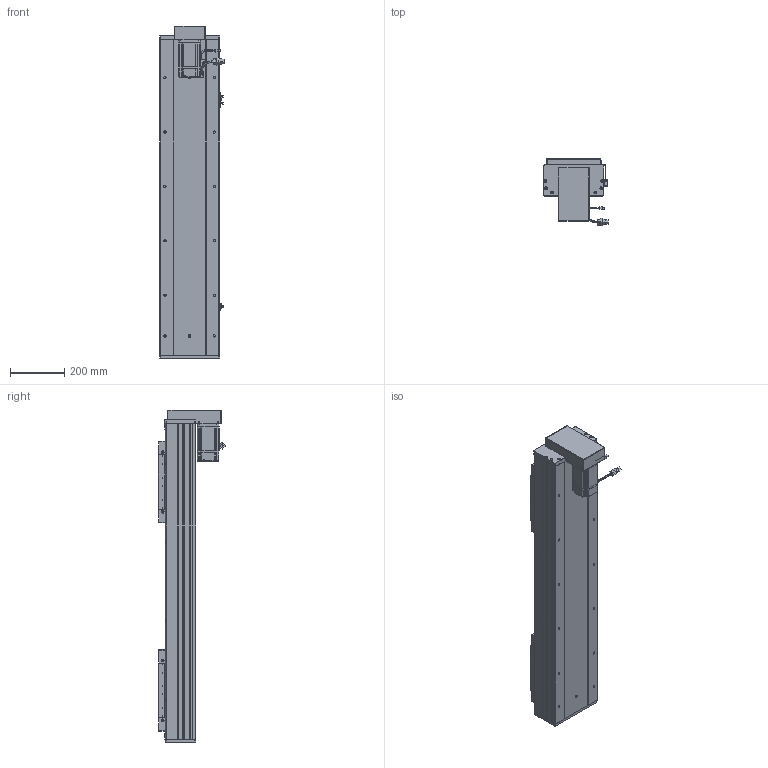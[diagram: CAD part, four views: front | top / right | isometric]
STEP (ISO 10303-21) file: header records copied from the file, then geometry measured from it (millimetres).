
FILE_DESCRIPTION (( 'STEP AP203' ), '1' );
FILE_NAME ('RY220F-L2525-300-BK.SLDASM_750.step', '2022-07-04T01:20:39', ( '' ), ( '' ), 'SwSTEP 2.0', 'SolidWorks 2016', '' );
FILE_SCHEMA (( 'CONFIG_CONTROL_DESIGN' ));
Length unit declared in the file: millimetre
Products named in the file (15): RY220F蛌殏菁釱-300_750; RY220F臏賑釱25-32佪裝; RY220F-672覜茼んえ; RY220F-祥凄詩湍-蛌殏-300_750; RY220F綴裔啣; RY220F-詩湍揤踡輸; 覜茼ん672; RY220狟殏萇儂欶; RY220F-滅鳥奻裔; 滅袉蝶18-24; 怢湛750W_ECMA-CX0807ES; RY220狟殏萇儂假蚾啣; 侐源滅袉蝶; RY220F-L2525-300-BK.SLDASM_750; RY220F-蛌殏奻裔啣-300_750
Assembly tree (24 placements, depth 2):
  RY220F-L2525-300-BK.SLDASM_750
    RY220F蛌殏菁釱-300_750
    RY220F-蛌殏奻裔啣-300_750  x2
    怢湛750W_ECMA-CX0807ES
    RY220F臏賑釱25-32佪裝  x2
    RY220F-滅鳥奻裔  x2
    滅袉蝶18-24  x3
    RY220F綴裔啣
    RY220F-祥凄詩湍-蛌殏-300_750
    RY220F-詩湍揤踡輸  x2
    覜茼ん672  x3
    RY220F-672覜茼んえ  x2
    侐源滅袉蝶  x2
    RY220狟殏萇儂假蚾啣
    RY220狟殏萇儂欶
Bounding box: 237.27 x 247.24 x 1221 mm (x, y, z)
Volume: 12771645.1 mm3; surface area: 3251057.4 mm2
Topology: 25 solids, 25 shells, 2711 faces, 7378 edges, 4579 vertices
Faces by surface type: cylinder 1198, plane 1062, cone 380, bspline 45, sphere 16, torus 10
Entity records: 67057 total; most frequent: CARTESIAN_POINT 18397, ORIENTED_EDGE 9866, DIRECTION 9497, EDGE_CURVE 4933, AXIS2_PLACEMENT_3D 3346, VERTEX_POINT 3195, LINE 2805, VECTOR 2805
